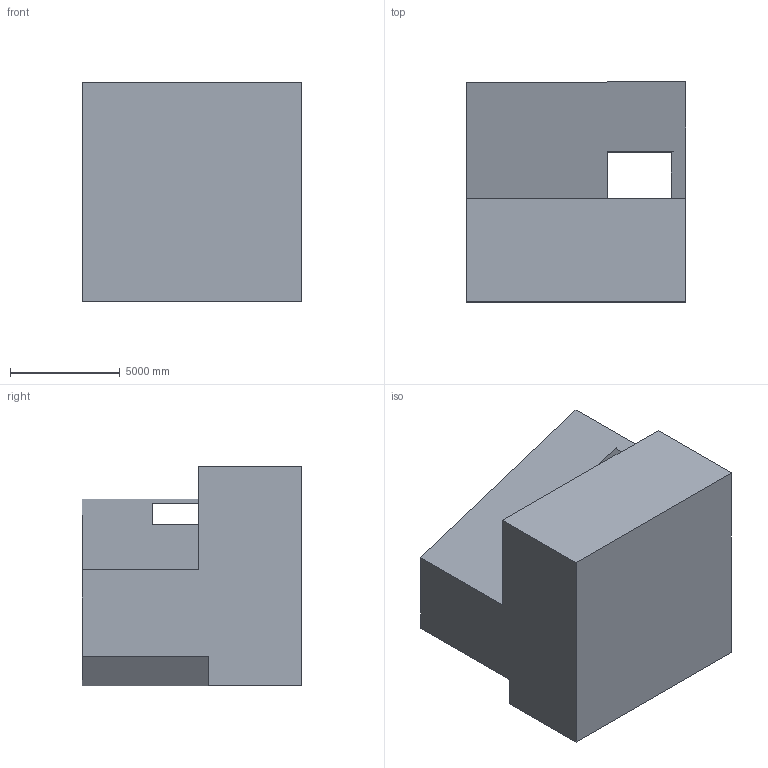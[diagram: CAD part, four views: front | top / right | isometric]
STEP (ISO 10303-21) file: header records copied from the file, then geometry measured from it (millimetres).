
FILE_DESCRIPTION (( 'STEP AP203' ), '1' );
FILE_NAME ('1268.STEP', '2022-08-18T13:28:53', ( 'user' ), ( '' ), 'SwSTEP 2.0', 'SolidWorks 2021', '' );
FILE_SCHEMA (( 'CONFIG_CONTROL_DESIGN' ));
Length unit declared in the file: centimetre
Products named in the file (1): 1268
Bounding box: 10000 x 10000 x 10000 mm (x, y, z)
Volume: 693978159549.9 mm3; surface area: 605286755.4 mm2
Topology: 1 solids, 1 shells, 14 faces, 42 edges, 28 vertices
Faces by surface type: plane 14
Entity records: 547 total; most frequent: CARTESIAN_POINT 85, ORIENTED_EDGE 84, DIRECTION 72, EDGE_CURVE 42, VECTOR 42, LINE 42, VERTEX_POINT 28, AXIS2_PLACEMENT_3D 15
